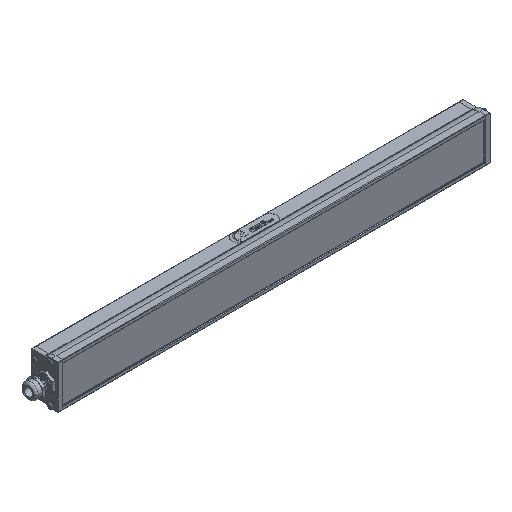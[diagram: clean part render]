
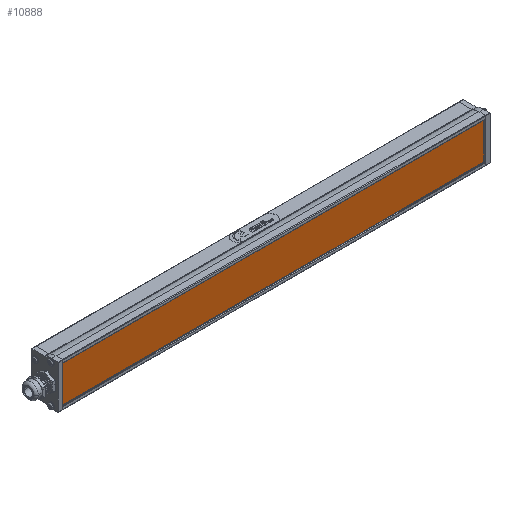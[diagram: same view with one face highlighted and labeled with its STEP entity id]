
A CAD part, isometric view. The second image highlights one B-rep face of the part: STEP entity #10888.
In plain terms, the highlighted planar face has unit normal (0, -1, 0) as drawn and (0, 1, 0) by its records, which use the part's own axes.
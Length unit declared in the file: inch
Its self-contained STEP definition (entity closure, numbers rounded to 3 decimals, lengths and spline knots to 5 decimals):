
#183 = VECTOR ( 'NONE', #23712, 39.37008 ) ;
#205 = EDGE_CURVE ( 'NONE', #8633, #22647, #15332, .T. ) ;
#2486 = EDGE_LOOP ( 'NONE', ( #17957, #4393, #20733, #16689 ) ) ;
#4186 = VECTOR ( 'NONE', #32114, 39.37008 ) ;
#4393 = ORIENTED_EDGE ( 'NONE', *, *, #23309, .T. ) ;
#5196 = CARTESIAN_POINT ( 'NONE',  ( -6.135, 0.03, -0.586 ) ) ;
#6898 = EDGE_CURVE ( 'NONE', #22166, #8633, #17022, .T. ) ;
#8633 = VERTEX_POINT ( 'NONE', #5196 ) ;
#9576 = LINE ( 'NONE', #27900, #18546 ) ;
#9659 = LINE ( 'NONE', #14602, #4186 ) ;
#10888 = ADVANCED_FACE ( 'NONE', ( #28787 ), #17208, .T. ) ;
#12667 = DIRECTION ( 'NONE',  ( 0., 0., 1. ) ) ;
#13716 = AXIS2_PLACEMENT_3D ( 'NONE', #29492, #26947, #24634 ) ;
#13749 = VECTOR ( 'NONE', #12667, 39.37008 ) ;
#14602 = CARTESIAN_POINT ( 'NONE',  ( -6.135, 0.03, 0.586 ) ) ;
#15332 = LINE ( 'NONE', #27621, #13749 ) ;
#16689 = ORIENTED_EDGE ( 'NONE', *, *, #6898, .T. ) ;
#17022 = LINE ( 'NONE', #24140, #183 ) ;
#17183 = CARTESIAN_POINT ( 'NONE',  ( 6.135, 0.03, -0.586 ) ) ;
#17208 = PLANE ( 'NONE',  #13716 ) ;
#17957 = ORIENTED_EDGE ( 'NONE', *, *, #205, .T. ) ;
#18546 = VECTOR ( 'NONE', #27444, 39.37008 ) ;
#20733 = ORIENTED_EDGE ( 'NONE', *, *, #24433, .T. ) ;
#22166 = VERTEX_POINT ( 'NONE', #17183 ) ;
#22647 = VERTEX_POINT ( 'NONE', #23133 ) ;
#23133 = CARTESIAN_POINT ( 'NONE',  ( -6.135, 0.03, 0.586 ) ) ;
#23309 = EDGE_CURVE ( 'NONE', #22647, #23919, #9659, .T. ) ;
#23712 = DIRECTION ( 'NONE',  ( -1., 0., 0. ) ) ;
#23919 = VERTEX_POINT ( 'NONE', #24051 ) ;
#24051 = CARTESIAN_POINT ( 'NONE',  ( 6.135, 0.03, 0.586 ) ) ;
#24140 = CARTESIAN_POINT ( 'NONE',  ( -6.135, 0.03, -0.586 ) ) ;
#24433 = EDGE_CURVE ( 'NONE', #23919, #22166, #9576, .T. ) ;
#24634 = DIRECTION ( 'NONE',  ( 0., 0., 1. ) ) ;
#26947 = DIRECTION ( 'NONE',  ( 0., 1., 0. ) ) ;
#27444 = DIRECTION ( 'NONE',  ( 0., 0., -1. ) ) ;
#27621 = CARTESIAN_POINT ( 'NONE',  ( -6.135, 0.03, -0.586 ) ) ;
#27900 = CARTESIAN_POINT ( 'NONE',  ( 6.135, 0.03, -0.586 ) ) ;
#28787 = FACE_OUTER_BOUND ( 'NONE', #2486, .T. ) ;
#29492 = CARTESIAN_POINT ( 'NONE',  ( -6.135, 0.03, 0.586 ) ) ;
#32114 = DIRECTION ( 'NONE',  ( 1., 0., 0. ) ) ;
